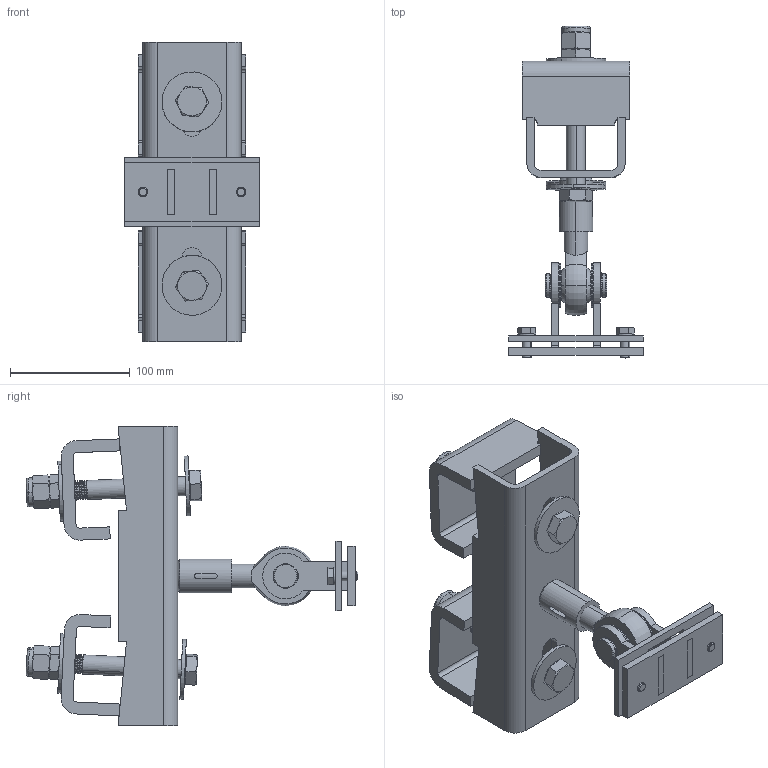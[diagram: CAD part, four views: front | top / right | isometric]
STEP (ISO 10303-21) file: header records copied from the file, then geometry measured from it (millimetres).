
FILE_DESCRIPTION (( 'STEP AP214' ), '1' );
FILE_NAME ('900.100.115.STEP', '2015-02-23T15:39:07', ( '' ), ( '' ), 'SwSTEP 2.0', 'SolidWorks 2012', '' );
FILE_SCHEMA (( 'AUTOMOTIVE_DESIGN' ));
Length unit declared in the file: millimetre
Products named in the file (18): 900.100.115; 900.100.025; 900.100.002-1; 900.100.004-1; 900.100.005; VITI TE UNI 5739_M8x20 UNI 5739; RONDELLA 20 (21-37-1.5); 900.100.021; circlip for shafts normal_din_Circlip DIN 471 - 15 x 1; curved spring lock washer_din_Spring washer DIN 128 - A10; curved spring lock washer_din_PreviewCfg; 900.100.102; hex bolt gradeab_iso_ISO 4014 - M16 x 130 x 44-S; plain washer large_din_Washer DIN 9021 - 10.5; 900.100.016-2; SNODO PFE 20U; hex thin nut chamfered gradeab_iso_Hexagon Thin Nut ISO - 4035 - M16 - N; torque nut 01_iso_ISO 7040-M16-N
Assembly tree (27 placements, depth 3):
  900.100.115
    900.100.025
    900.100.002-1  x2
    900.100.102
      900.100.004-1
      900.100.005
      VITI TE UNI 5739_M8x20 UNI 5739  x2
      RONDELLA 20 (21-37-1.5)  x2
      900.100.021
      circlip for shafts normal_din_Circlip DIN 471 - 15 x 1  x2
      curved spring lock washer_din_Spring washer DIN 128 - A10
      curved spring lock washer_din_PreviewCfg
    hex bolt gradeab_iso_ISO 4014 - M16 x 130 x 44-S  x2
    plain washer large_din_Washer DIN 9021 - 10.5  x4
    900.100.016-2
    SNODO PFE 20U
    hex thin nut chamfered gradeab_iso_Hexagon Thin Nut ISO - 4035 - M16 - N  x2
    torque nut 01_iso_ISO 7040-M16-N  x2
Bounding box: 112 x 276.71 x 250 mm (x, y, z)
Volume: 749423.9 mm3; surface area: 254434.3 mm2
Topology: 28 solids, 28 shells, 790 faces, 1926 edges, 1202 vertices
Faces by surface type: cone 284, cylinder 261, plane 218, torus 27
Entity records: 15917 total; most frequent: CARTESIAN_POINT 3244, DIRECTION 2627, ORIENTED_EDGE 2336, EDGE_CURVE 1168, AXIS2_PLACEMENT_3D 1049, VERTEX_POINT 734, CIRCLE 539, EDGE_LOOP 530
